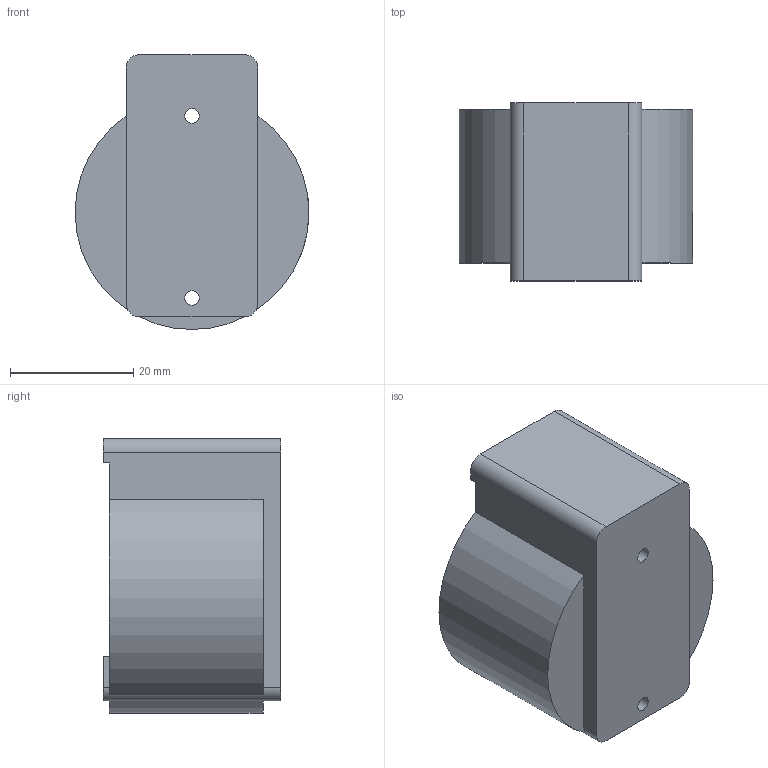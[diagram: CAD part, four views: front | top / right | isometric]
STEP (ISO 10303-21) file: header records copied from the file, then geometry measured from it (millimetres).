
FILE_DESCRIPTION(('Open CASCADE Model'),'2;1');
FILE_NAME('Open CASCADE Shape Model','2026-11-19T06:38:43',('Author'),( 'Open CASCADE'),'Open CASCADE STEP processor 8.0','Open CASCADE 8.0' ,'Unknown');
FILE_SCHEMA(('AUTOMOTIVE_DESIGN { 1 0 10303 214 1 1 1 1 }'));
Length unit declared in the file: millimetre
Products named in the file (1): Open CASCADE STEP translator 8.0 2
Bounding box: 38 x 28.9 x 44.67 mm (x, y, z)
Volume: 16181.7 mm3; surface area: 9626.5 mm2
Topology: 1 solids, 1 shells, 40 faces, 114 edges, 76 vertices
Faces by surface type: plane 26, cylinder 14
Full cylindrical faces by diameter (mm): 2.4 x2
Entity records: 2841 total; most frequent: CARTESIAN_POINT 681, DIRECTION 375, ORIENTED_EDGE 228, PCURVE 228, DEFINITIONAL_REPRESENTATION 228, LINE 206, VECTOR 206, EDGE_CURVE 114
